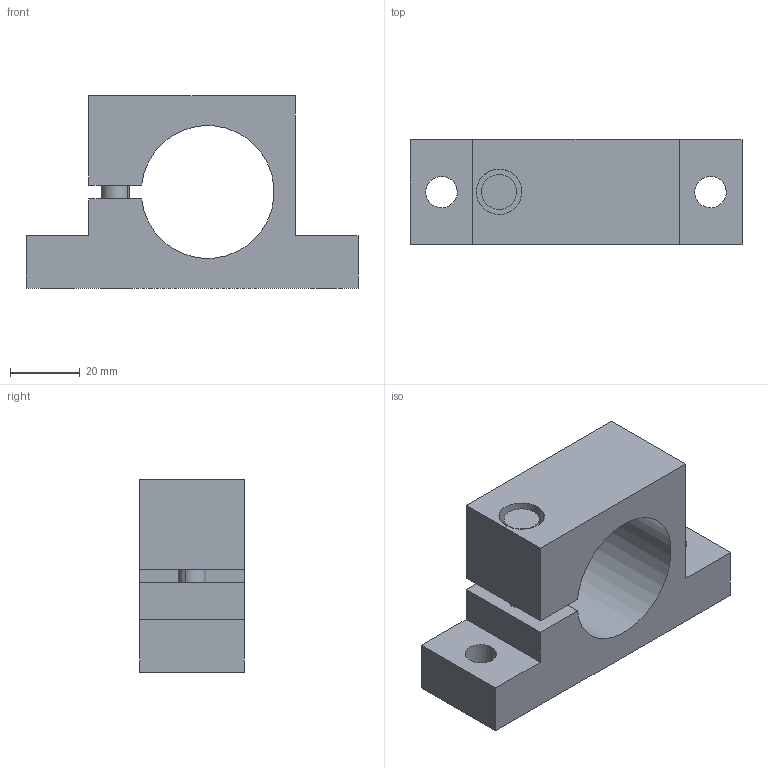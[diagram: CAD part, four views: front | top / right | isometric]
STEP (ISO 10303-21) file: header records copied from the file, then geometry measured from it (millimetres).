
FILE_DESCRIPTION(('CATIA V5 STEP Exchange'),'2;1');
FILE_NAME('W:\LIBRERIA TECAPRES®\FICHEROS CAD\BRIDAS\FI\FI-38.stp','2015-06-30T09:37:08+00:00',('none'),('none'),'CATIA Version 5 Release 17 (IN-10)','CATIA V5 STEP AP203','none');
FILE_SCHEMA(('CONFIG_CONTROL_DESIGN'));
Length unit declared in the file: millimetre
Products named in the file (1): BRIDA FI-38
Bounding box: 95 x 30 x 55 mm (x, y, z)
Volume: 74383.6 mm3; surface area: 19993.5 mm2
Topology: 1 solids, 1 shells, 29 faces, 72 edges, 46 vertices
Faces by surface type: plane 16, cylinder 13
Entity records: 851 total; most frequent: ORIENTED_EDGE 144, CARTESIAN_POINT 139, DIRECTION 112, EDGE_CURVE 72, AXIS2_PLACEMENT_3D 47, VECTOR 46, LINE 46, VERTEX_POINT 46
